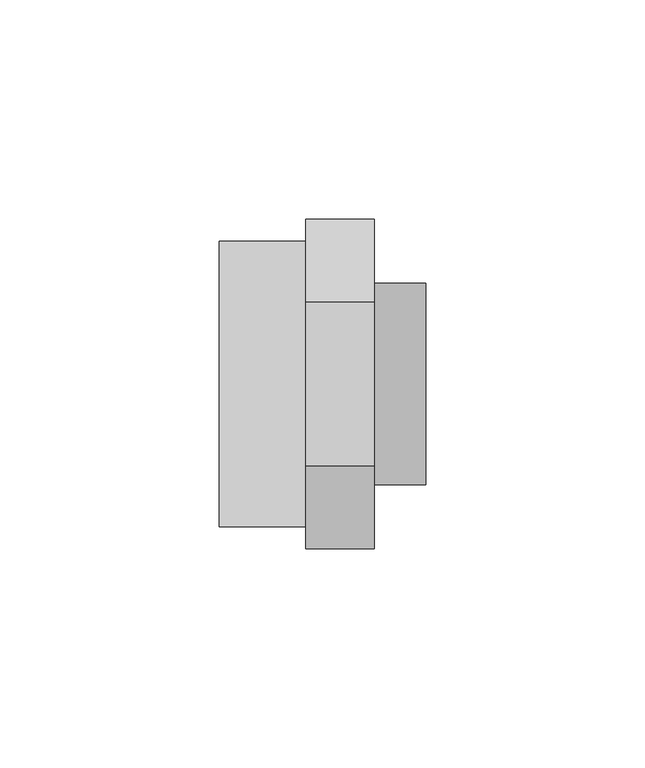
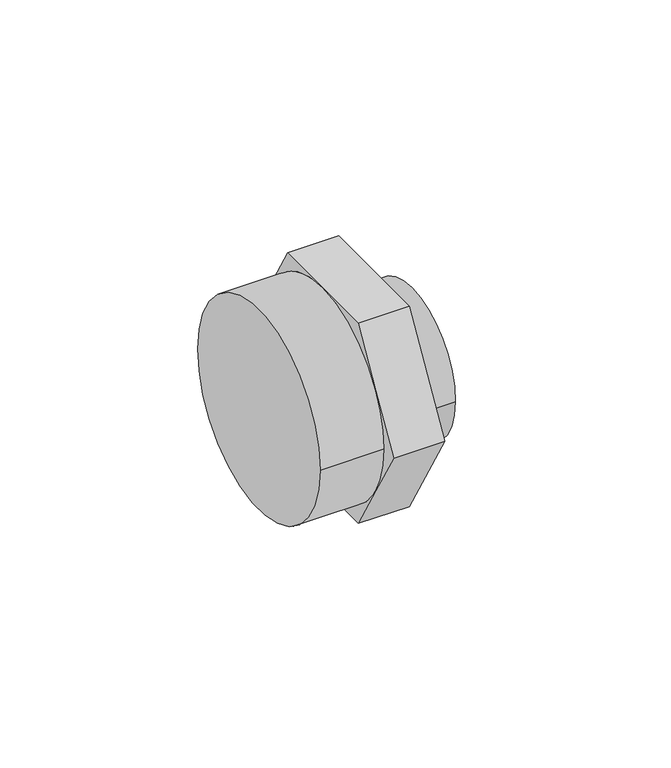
"""IFC4 building model written with IfcOpenShell, lengths in millimetres: pipe fitting geometry, 01021007 : Mamelons de réduction FxF avec anneaux de renfo."""

from ifc_helpers import new_model, si_unit, frame, origin, place, context, project, spatial, circle_curve, source, transform, mapped, element, save
from ifc_brep_helpers import plane_surface, cylinder_surface, advanced_brep


def pipe_fitting_7bb0cbe0(model_context):
    return source(origin(), model_context, "Body", "AdvancedBrep", [
        advanced_brep(
        [(35.3333333, -18.7638837, 32.5), (35.3333333, -37.5277675, 0.0), (35.3333333, -18.7638837, -32.5), (35.3333333, 18.7638837, -32.5), (35.3333333, 37.5277675, 0.0), (35.3333333, 18.7638837, 32.5), (35.3333333, -22.975, 0.0), (35.3333333, 22.975, 0.0), (19.6666667, -18.7638837, 32.5), (19.6666667, 0.0, 32.5), (19.6666667, -28.1458256, 16.25), (19.6666667, 18.7638837, 32.5), (19.6666667, 28.1458256, 16.25), (19.6666667, 37.5277675, 0.0), (19.6666667, 28.1458256, -16.25), (19.6666667, 32.5, 0.0), (19.6666667, 18.7638837, -32.5), (19.6666667, 0.0, -32.5), (19.6666667, -18.7638837, -32.5), (19.6666667, -28.1458256, -16.25), (19.6666667, -37.5277675, 0.0), (19.6666667, -32.5, 0.0), (47.0, -22.975, 0.0), (47.0, 22.975, 0.0), (0.0, 32.5, 0.0), (0.0, -32.5, 0.0)],
        [
            (0, 1),
            (1, 2),
            (2, 3),
            (3, 4),
            (4, 5),
            (5, 0),
            (6, 7, circle_curve(frame((35.3333333, 0.0, 0.0), z_axis=(-1.0, 0.0, 0.0), x_axis=(0.0, 1.0, 0.0)), 22.975)),
            (7, 6, circle_curve(frame((35.3333333, 0.0, 0.0), z_axis=(-1.0, 0.0, 0.0), x_axis=(0.0, 1.0, 0.0)), 22.975)),
            (8, 9),
            (9, 10, circle_curve(frame((19.6666667, 0.0, 0.0), z_axis=(1.0, 0.0, 0.0), x_axis=(0.0, -1.0, 0.0)), 32.5)),
            (10, 8),
            (9, 11),
            (11, 12),
            (12, 9, circle_curve(frame((19.6666667, 0.0, 0.0), z_axis=(1.0, 0.0, 0.0), x_axis=(0.0, -1.0, 0.0)), 32.5)),
            (12, 13),
            (13, 14),
            (14, 15, circle_curve(frame((19.6666667, 0.0, 0.0), z_axis=(1.0, 0.0, 0.0), x_axis=(0.0, -1.0, 0.0)), 32.5)),
            (15, 12, circle_curve(frame((19.6666667, 0.0, 0.0), z_axis=(1.0, 0.0, 0.0), x_axis=(0.0, -1.0, 0.0)), 32.5)),
            (14, 16),
            (16, 17),
            (17, 14, circle_curve(frame((19.6666667, 0.0, 0.0), z_axis=(1.0, 0.0, 0.0), x_axis=(0.0, -1.0, 0.0)), 32.5)),
            (17, 18),
            (18, 19),
            (19, 17, circle_curve(frame((19.6666667, 0.0, 0.0), z_axis=(1.0, 0.0, 0.0), x_axis=(0.0, -1.0, 0.0)), 32.5)),
            (19, 20),
            (20, 10),
            (10, 21, circle_curve(frame((19.6666667, 0.0, 0.0), z_axis=(1.0, 0.0, 0.0), x_axis=(0.0, -1.0, 0.0)), 32.5)),
            (21, 19, circle_curve(frame((19.6666667, 0.0, 0.0), z_axis=(1.0, 0.0, 0.0), x_axis=(0.0, -1.0, 0.0)), 32.5)),
            (0, 8),
            (20, 1),
            (18, 2),
            (16, 3),
            (13, 4),
            (11, 5),
            (22, 23, circle_curve(frame((47.0, 0.0, 0.0), z_axis=(1.0, 0.0, 0.0), x_axis=(0.0, 1.0, 0.0)), 22.975)),
            (23, 22, circle_curve(frame((47.0, 0.0, 0.0), z_axis=(1.0, 0.0, 0.0), x_axis=(0.0, 1.0, 0.0)), 22.975)),
            (23, 7),
            (6, 22),
            (24, 25, circle_curve(frame((0.0, 0.0, 0.0), z_axis=(-1.0, 0.0, 0.0), x_axis=(0.0, -1.0, 0.0)), 32.5)),
            (25, 24, circle_curve(frame((0.0, 0.0, 0.0), z_axis=(-1.0, 0.0, 0.0), x_axis=(0.0, -1.0, 0.0)), 32.5)),
            (25, 21),
            (15, 24),
        ],
        [
            plane_surface(frame((35.3333333, -18.7638837, 32.5), z_axis=(1.0, 0.0, 0.0), x_axis=(0.0, -0.5000000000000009, -0.8660254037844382))),
            plane_surface(frame((19.6666667, -18.7638837, 32.5), z_axis=(-1.0, 0.0, 0.0), x_axis=(0.0, 0.5000000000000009, 0.8660254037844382))),
            plane_surface(frame((35.3333333, -18.7638837, 32.5), z_axis=(0.0, -0.8660254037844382, 0.5000000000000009), x_axis=(-1.0, 0.0, 0.0))),
            plane_surface(frame((35.3333333, -37.5277675, 0.0), z_axis=(0.0, -0.8660254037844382, -0.500000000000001), x_axis=(-1.0, 0.0, 0.0))),
            plane_surface(frame((35.3333333, -18.7638837, -32.5), z_axis=(0.0, 0.0, -1.0), x_axis=(-1.0, 0.0, 0.0))),
            plane_surface(frame((35.3333333, 18.7638837, -32.5), z_axis=(0.0, 0.8660254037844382, -0.500000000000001), x_axis=(-1.0, 0.0, 0.0))),
            plane_surface(frame((35.3333333, 37.5277675, 0.0), z_axis=(0.0, 0.866025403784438, 0.5000000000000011), x_axis=(-1.0, 0.0, 0.0))),
            plane_surface(frame((35.3333333, 18.7638837, 32.5), z_axis=(0.0, 0.0, 1.0), x_axis=(-1.0, 0.0, 0.0))),
            plane_surface(frame((47.0, 0.0, 0.0), z_axis=(1.0, 0.0, 0.0), x_axis=(0.0, 0.0, 1.0))),
            cylinder_surface(frame((32.0, 0.0, 0.0), z_axis=(-1.0, 0.0, 0.0), x_axis=(0.0, 1.0, 0.0)), 22.975),
            plane_surface(frame((0.0, 0.0, 0.0), z_axis=(-1.0, 0.0, 0.0), x_axis=(0.0, 0.0, 1.0))),
            cylinder_surface(frame((23.0, 0.0, 0.0), z_axis=(1.0, 0.0, 0.0), x_axis=(0.0, -1.0, 0.0)), 32.5),
        ],
        [
            (0, [[1, 2, 3, 4, 5, 6], [7, 8]]),
            (1, [[9, 10, 11]]),
            (1, [[12, 13, 14]]),
            (1, [[15, 16, 17, 18]]),
            (1, [[19, 20, 21]]),
            (1, [[22, 23, 24]]),
            (1, [[25, 26, 27, 28]]),
            (2, [[-1, 29, -11, -26, 30]]),
            (3, [[-2, -30, -25, -23, 31]]),
            (4, [[-3, -31, -22, -20, 32]]),
            (5, [[-4, -32, -19, -16, 33]]),
            (6, [[-5, -33, -15, -13, 34]]),
            (7, [[-6, -34, -12, -9, -29]]),
            (8, [[35, 36]]),
            (9, [[-36, 37, -7, 38]]),
            (9, [[-35, -38, -8, -37]]),
            (10, [[39, 40]]),
            (11, [[-40, 41, -27, -10, -14, -18, 42]]),
            (11, [[-39, -42, -17, -21, -24, -28, -41]]),
        ],
    ),
    ])


if __name__ == "__main__":
    model = new_model("IFC4")
    model_context = context("Model", 3, world=origin())
    ifc_project = project(units=[si_unit("LENGTHUNIT", "METRE", prefix="MILLI")], contexts=[model_context])
    site = spatial("IfcSite", under=ifc_project)
    building = spatial("IfcBuilding", under=site)
    placement = place(None, origin())
    pipe_fitting_shape = pipe_fitting_7bb0cbe0(model_context)
    element("IfcPipeFitting", 1, ObjectType="01021007 : Mamelons de réduction FxF avec anneaux de renfo", at=placement, inside=building, context=model_context, shape_type="MappedRepresentation", body=[
        mapped(pipe_fitting_shape, transform((0.0, 0.0, 0.0), x_axis=(1.0, 0.0, 0.0), y_axis=(0.0, 1.0, 0.0), z_axis=(0.0, 0.0, 1.0))),
    ])
    save(model, "model.ifc")
